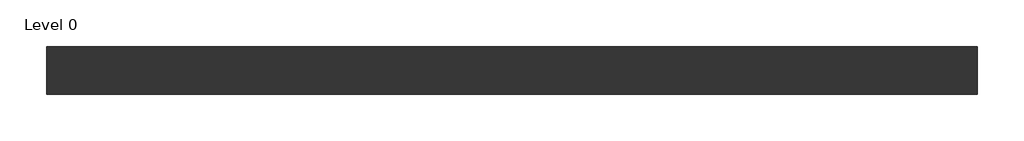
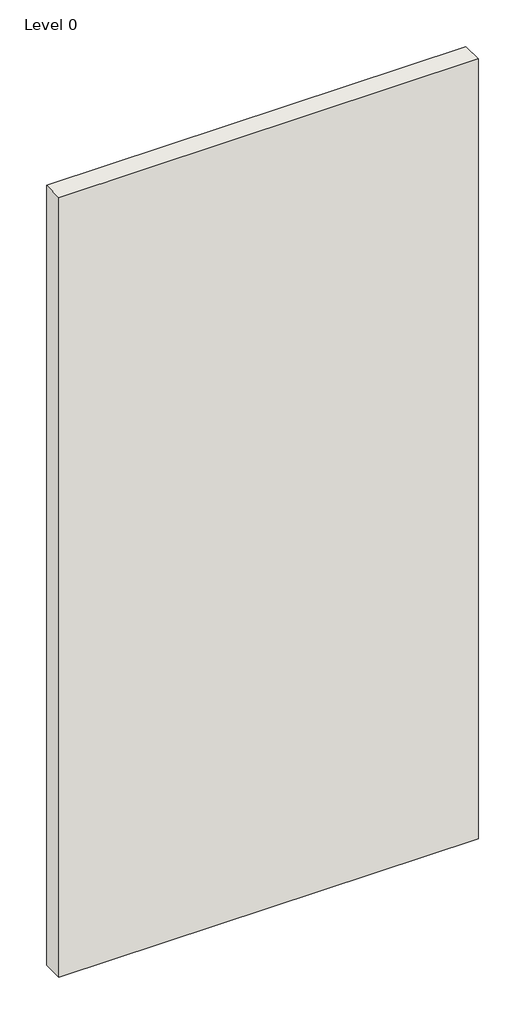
# One storey: 1 wall.
"""IFC4 building model written with IfcOpenShell, lengths in millimetres."""

import ifcopenshell
import ifcopenshell.guid

model = None  # the IFC model being written
_history = None  # IfcOwnerHistory: only IFC2X3 demands one
_inside = {}  # id of a spatial element -> (the spatial element, [elements in it])
_under = {}  # id of a project, library or spatial element -> (it, [spatial elements below it])
_declared = {}  # id of a project -> (the project, [libraries it declares])
_typed = {}  # id of a type object -> (the type object, [elements of that type])
_made_of = {}  # id of a material, layer set ... -> (it, [elements and type objects made of it])


def new_model(schema):
    """Start an empty IFC model of exactly this schema.

    Asked for "IFC4X3", IfcOpenShell would pick the latest addendum, in which some entities
    have other attributes; the version numbers below select the first issue.
    IFC2X3 requires an IfcOwnerHistory on every rooted entity: one is made here for all.
    """
    global model, _history
    if schema == "IFC4X3":
        model = ifcopenshell.file(schema_version=(4, 3, 0, 0))
    else:
        model = ifcopenshell.file(schema=schema)
    _inside.clear()
    _under.clear()
    _declared.clear()
    _typed.clear()
    _made_of.clear()
    _history = None
    if model.schema == "IFC2X3":
        org = make("IfcOrganization", Name="unknown")
        user = make(
            "IfcPersonAndOrganization",
            ThePerson=make("IfcPerson", FamilyName="unknown"),
            TheOrganization=org,
        )
        app = make(
            "IfcApplication",
            ApplicationDeveloper=org,
            Version="unknown",
            ApplicationFullName="unknown",
            ApplicationIdentifier="unknown",
        )
        _history = make(
            "IfcOwnerHistory",
            OwningUser=user,
            OwningApplication=app,
            ChangeAction="ADDED",
            CreationDate=0,
        )
    return model


def make(cls, **values):
    """One entity of the class cls with the attributes given. An attribute that is None is left unset."""
    return model.create_entity(
        cls, **{name: value for name, value in values.items() if value is not None}
    )


def rooted(cls, **values):
    """An entity with a GlobalId (a new one), such as an element, a storey or a relation."""
    return make(cls, GlobalId=ifcopenshell.guid.new(), OwnerHistory=_history, **values)


def si_unit(unit_type, name, prefix=None):
    """IfcSIUnit, for example si_unit("LENGTHUNIT", "METRE", prefix="MILLI")."""
    return make("IfcSIUnit", UnitType=unit_type, Prefix=prefix, Name=name)


def assignment(units):
    """IfcUnitAssignment: the units of a project."""
    return None if units is None else make("IfcUnitAssignment", Units=units)


def point(xyz):
    """IfcCartesianPoint."""
    return None if xyz is None else make("IfcCartesianPoint", Coordinates=xyz)


def direction(xyz):
    """IfcDirection."""
    return None if xyz is None else make("IfcDirection", DirectionRatios=xyz)


def frame(location, z_axis=None, x_axis=None):
    """IfcAxis2Placement3D, a coordinate frame: its origin and axes. An axis left out is left unset."""
    return make(
        "IfcAxis2Placement3D",
        Location=point(location),
        Axis=direction(z_axis),
        RefDirection=direction(x_axis),
    )


def origin():
    """The frame at (0, 0, 0) with its axes left unset."""
    return frame((0.0, 0.0, 0.0))


def origin_with_axes():
    """The frame at (0, 0, 0) with the z axis (0, 0, 1) and the x axis (1, 0, 0) written out."""
    return frame((0.0, 0.0, 0.0), z_axis=(0.0, 0.0, 1.0), x_axis=(1.0, 0.0, 0.0))


def place(relative_to, where):
    """IfcLocalPlacement: puts the frame where relative to a parent placement (None: the world)."""
    return make(
        "IfcLocalPlacement", PlacementRelTo=relative_to, RelativePlacement=where
    )


def context(
    kind, dimensions, precision=None, world=None, true_north=None, identifier=None
):
    """IfcGeometricRepresentationContext, for example the 3D "Model" context."""
    return make(
        "IfcGeometricRepresentationContext",
        ContextIdentifier=identifier,
        ContextType=kind,
        CoordinateSpaceDimension=dimensions,
        Precision=precision,
        WorldCoordinateSystem=world,
        TrueNorth=true_north,
    )


def project(units=None, contexts=None):
    """IfcProject with its units and contexts."""
    return rooted(
        "IfcProject",
        Name="project",
        RepresentationContexts=contexts,
        UnitsInContext=assignment(units),
    )


def spatial(cls, under=None, at=None, **own):
    """A site, building, storey or space (cls), placed at a placement, below another one or the project."""
    s = rooted(cls, ObjectPlacement=at, **own)
    if under is not None:
        _under.setdefault(under.id(), (under, []))[1].append(s)
    return s


def polyline(points):
    """IfcPolyline through the points."""
    return make("IfcPolyline", Points=[point(p) for p in points])


def outline(outer, holes=None, kind="AREA"):
    """IfcArbitraryClosedProfileDef: a profile drawn as a closed curve; with holes, ...WithVoids."""
    if holes is None:
        return make("IfcArbitraryClosedProfileDef", ProfileType=kind, OuterCurve=outer)
    return make(
        "IfcArbitraryProfileDefWithVoids",
        ProfileType=kind,
        OuterCurve=outer,
        InnerCurves=holes,
    )


def extrude(swept, where, along, depth):
    """IfcExtrudedAreaSolid: the profile swept, set in the frame where, extruded along a direction by depth."""
    return make(
        "IfcExtrudedAreaSolid",
        SweptArea=swept,
        Position=where,
        ExtrudedDirection=direction(along),
        Depth=depth,
    )


def shape(context_of_items, identifier, shape_type, items):
    """IfcShapeRepresentation: the items that make up one representation, for example the "Body"."""
    return make(
        "IfcShapeRepresentation",
        ContextOfItems=context_of_items,
        RepresentationIdentifier=identifier,
        RepresentationType=shape_type,
        Items=items,
    )


def made_of(thing, what):
    """Note that an element or type object is made of a material, layer set ...; save() writes the relation."""
    if what is not None:
        _made_of.setdefault(what.id(), (what, []))[1].append(thing)
    return thing


def element(
    cls,
    number,
    at=None,
    inside=None,
    cuts=None,
    type_object=None,
    material=None,
    context=None,
    identifier="Body",
    shape_type=None,
    held_by="IfcProductDefinitionShape",
    body=None,
    shapes=None,
    **own,
):
    """One element of the class cls, such as IfcWall. Its Tag is "e" and its number.

    at: its placement. inside: the storey or other place that contains it. cuts: it is an
    opening in that element (IfcRelVoidsElement). A single representation is given by context,
    identifier, shape_type and body (its items); several are given by shapes. held_by: the class
    of the entity that holds the representations. save() writes the other relations.
    """
    e = rooted(cls, Tag="e%d" % number, ObjectPlacement=at, **own)
    if body is not None:
        shapes = [shape(context, identifier, shape_type, body)]
    if shapes is not None:
        e.Representation = make(held_by, Representations=shapes)
    if inside is not None:
        _inside.setdefault(inside.id(), (inside, []))[1].append(e)
    if cuts is not None:
        rooted(
            "IfcRelVoidsElement", RelatingBuildingElement=cuts, RelatedOpeningElement=e
        )
    if type_object is not None:
        _typed.setdefault(type_object.id(), (type_object, []))[1].append(e)
    return made_of(e, material)


def aggregate(whole, parts):
    """IfcRelAggregates: a whole, such as a stair, and the parts it consists of."""
    return rooted("IfcRelAggregates", RelatingObject=whole, RelatedObjects=parts)


def save(model, path):
    """Write the relations noted so far, then the file.

    IfcRelAggregates (storeys below a building ...), IfcRelContainedInSpatialStructure (elements
    in a storey), IfcRelDefinesByType, IfcRelAssociatesMaterial and IfcRelDeclares: one each for
    every whole, place, type object, material and project.
    """
    for whole, parts in _under.values():
        aggregate(whole, parts)
    for where, things in _inside.values():
        rooted(
            "IfcRelContainedInSpatialStructure",
            RelatedElements=things,
            RelatingStructure=where,
        )
    for kind, things in _typed.values():
        rooted("IfcRelDefinesByType", RelatedObjects=things, RelatingType=kind)
    for what, things in _made_of.values():
        rooted("IfcRelAssociatesMaterial", RelatedObjects=things, RelatingMaterial=what)
    for by, libraries in _declared.values():
        rooted("IfcRelDeclares", RelatingContext=by, RelatedDefinitions=libraries)
    model.write(path)


model = new_model("IFC4")

# Units and contexts
model_context = context("Model", 3, world=origin())
ifc_project = project(units=[si_unit("LENGTHUNIT", "METRE", prefix="MILLI")], contexts=[model_context])

# Site, building, storey
site = spatial("IfcSite", under=ifc_project)
building = spatial("IfcBuilding", under=site)
storey = spatial("IfcBuildingStorey", under=building, Name="Level 0", Elevation=0.0)

# Wall
placement = place(None, origin())
element("IfcWall", 1, ObjectType="A206276 - GypWall CLASSIC", at=placement, inside=storey, context=model_context, shape_type="SweptSolid", body=[
    extrude(outline(polyline([(2116.0807354, 516.7205641), (-883.9192646, 516.7205641), (-883.9192646, 670.7205641), (2116.0807354, 670.7205641), (2116.0807354, 516.7205641)])), origin_with_axes(), (0.0, 0.0, 1.0), 5900.0),
])

save(model, "model.ifc")
